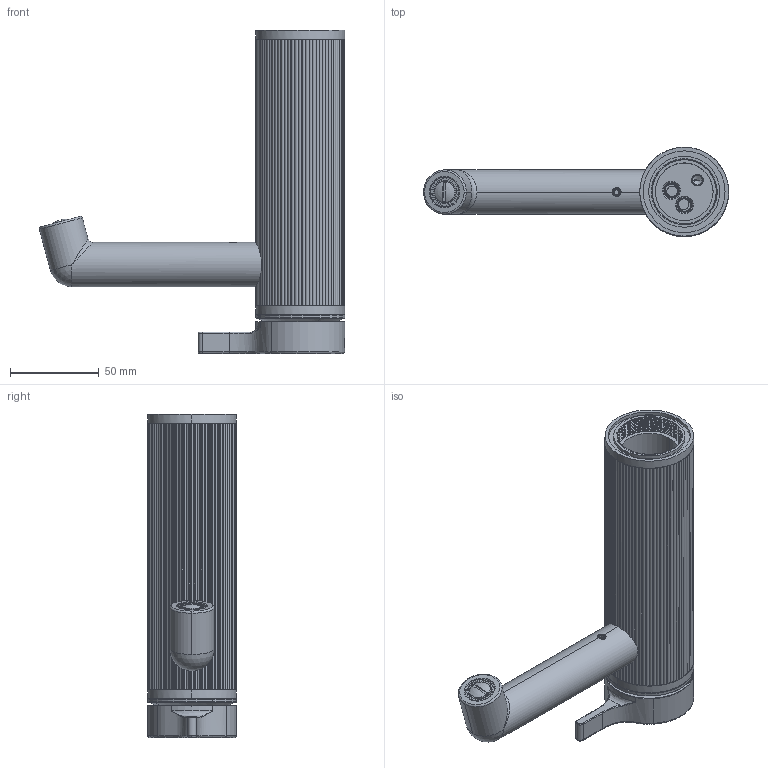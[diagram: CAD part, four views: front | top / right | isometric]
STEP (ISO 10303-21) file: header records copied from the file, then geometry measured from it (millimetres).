
FILE_DESCRIPTION (( 'STEP AP203' ), '1' );
FILE_NAME ('DGE1.STEP', '2023-12-21T15:37:01', ( '' ), ( '' ), 'SwSTEP 2.0', 'SolidWorks 2023', '' );
FILE_SCHEMA (( 'CONFIG_CONTROL_DESIGN' ));
Length unit declared in the file: millimetre
Products named in the file (19): C24.2684.00; C24.1861.00.1; C12.00.0007; C25.2384.00.0; C10.00.0032; C24.2685.00; K-25OP-3; C24.2683.00; C11.14.0009; C12.00.0028; K-25OP-2; C47.00.0023.01; C24.2681.00; C13.00.0043; C24.2689.00; K-25OP-1; C11.14.0019; C11.14.0003; DGE1
Assembly tree (20 placements, depth 3):
  DGE1
    C24.2684.00
    C24.2689.00
    C24.2683.00
    C47.00.0023.01
    C24.2681.00
    C10.00.0032
      K-25OP-1
      K-25OP-2
      K-25OP-3
    C24.1861.00.1
    C24.2685.00
    C12.00.0028  x2
    C11.14.0003
    C11.14.0009
    C25.2384.00.0
    C12.00.0007  x2
    C13.00.0043
    C11.14.0019
Bounding box: 171.82 x 50 x 181.8 mm (x, y, z)
Volume: 285135.6 mm3; surface area: 101621.8 mm2
Topology: 19 solids, 19 shells, 1390 faces, 3480 edges, 2188 vertices
Faces by surface type: cylinder 675, plane 457, torus 97, cone 83, bspline 74, sphere 4
Entity records: 55526 total; most frequent: CARTESIAN_POINT 20812, DIRECTION 7265, ORIENTED_EDGE 6832, EDGE_CURVE 3416, AXIS2_PLACEMENT_3D 3037, VERTEX_POINT 2156, CIRCLE 1725, EDGE_LOOP 1458
